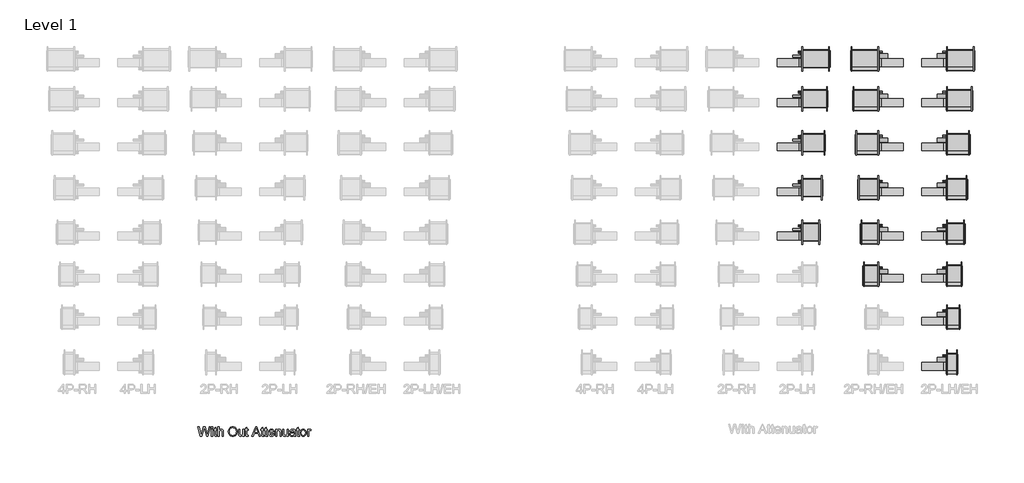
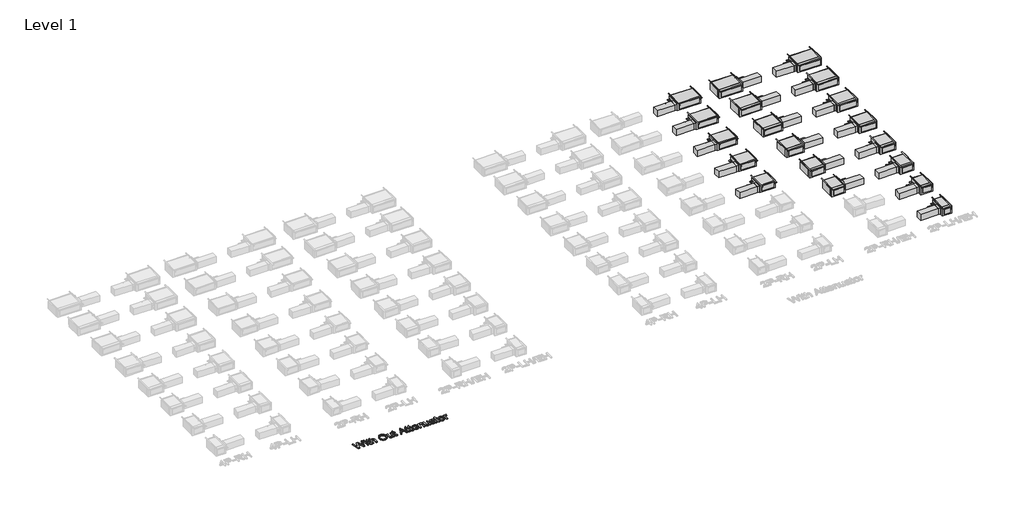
# One storey, part 2 of 4: 20 proxies.
"""IFC4 building model written with IfcOpenShell, lengths in millimetres."""

from ifc_helpers import new_model, si_unit, origin, origin_with_axes, place, context, project, spatial, polyline, outline, extrude, transform, mapped, element, save
from components import mechanical_equipment_1afd819a, mechanical_equipment_044ea831, mechanical_equipment_f4e936ba, mechanical_equipment_10c53586, mechanical_equipment_27d3f2bd, mechanical_equipment_bcd7ff5d, mechanical_equipment_bf31da1a, mechanical_equipment_6a731e72, mechanical_equipment_c1350a66, mechanical_equipment_6548215f, mechanical_equipment_0e267f77, mechanical_equipment_23481741, mechanical_equipment_97149d46, mechanical_equipment_6029a46f, mechanical_equipment_d98c4a94, mechanical_equipment_e087616a, mechanical_equipment_911e0225, mechanical_equipment_e784d3da, mechanical_equipment_f77b4c18

model = new_model("IFC4")

# Units and contexts
model_context = context("Model", 3, world=origin())
ifc_project = project(units=[si_unit("LENGTHUNIT", "METRE", prefix="MILLI")], contexts=[model_context])

# Site, building, storey
site = spatial("IfcSite", under=ifc_project)
building = spatial("IfcBuilding", under=site)
storey = spatial("IfcBuildingStorey", under=building, Name="Level 1", Elevation=0.0)

# Proxies
placement = place(None, origin())
mechanical_equipment_shape = mechanical_equipment_1afd819a(model_context)
element("IfcBuildingElementProxy", 1, Name="High_Capacity_Horizontal_Cabinet_Fan_Coil_Unit_-_HTY_-_IEC_-_2 Pipe, Elec Heat_LH Side_2022 : Size 06 - 277v/60Hz/1Ph - 8/0 Coil 4.0kW - 8\" AirIn", ObjectType="High_Capacity_Horizontal_Cabinet_Fan_Coil_Unit_-_HTY_-_IEC_-_2 Pipe, Elec Heat_LH Side_2022 : Size 06 - 277v/60Hz/1Ph - 8/0 Coil 4.0kW - 8\" AirIn", at=placement, inside=storey, context=model_context, shape_type="MappedRepresentation", body=[
    mapped(mechanical_equipment_shape, transform((8554.9811562, 2254.7980436, 457.2), x_axis=(1.0, 0.0, 0.0), y_axis=(0.0, 1.0, 0.0), z_axis=(0.0, 0.0, 1.0))),
])
mechanical_equipment_2_shape = mechanical_equipment_044ea831(model_context)
element("IfcBuildingElementProxy", 2, Name="High_Capacity_Horizontal_Cabinet_Fan_Coil_Unit_-_HTY_-_IEC_-_2 Pipe, Elec Heat_LH Side_2022 : Size 08 - 277v/60Hz/1Ph - 8/0 Coil 6.0kW - 8\" AirIn", ObjectType="High_Capacity_Horizontal_Cabinet_Fan_Coil_Unit_-_HTY_-_IEC_-_2 Pipe, Elec Heat_LH Side_2022 : Size 08 - 277v/60Hz/1Ph - 8/0 Coil 6.0kW - 8\" AirIn", at=placement, inside=storey, context=model_context, shape_type="MappedRepresentation", body=[
    mapped(mechanical_equipment_2_shape, transform((8618.4811562, 4489.9980436, 457.2), x_axis=(1.0, 0.0, 0.0), y_axis=(0.0, 1.0, 0.0), z_axis=(0.0, 0.0, 1.0))),
])
mechanical_equipment_3_shape = mechanical_equipment_f4e936ba(model_context)
element("IfcBuildingElementProxy", 3, Name="High_Capacity_Horizontal_Cabinet_Fan_Coil_Unit_-_HTY_-_IEC_-_2 Pipe, Elec Heat_LH Side_2022 : Size 10 - 277v/60Hz/1Ph - 8/0 Coil 7.0kW - 8\" AirIn", ObjectType="High_Capacity_Horizontal_Cabinet_Fan_Coil_Unit_-_HTY_-_IEC_-_2 Pipe, Elec Heat_LH Side_2022 : Size 10 - 277v/60Hz/1Ph - 8/0 Coil 7.0kW - 8\" AirIn", at=placement, inside=storey, context=model_context, shape_type="MappedRepresentation", body=[
    mapped(mechanical_equipment_3_shape, transform((8669.2811562, 6623.5980436, 457.2), x_axis=(1.0, 0.0, 0.0), y_axis=(0.0, 1.0, 0.0), z_axis=(0.0, 0.0, 1.0))),
])
mechanical_equipment_4_shape = mechanical_equipment_10c53586(model_context)
element("IfcBuildingElementProxy", 4, Name="High_Capacity_Horizontal_Cabinet_Fan_Coil_Unit_-_HTY_-_IEC_-_2 Pipe, Elec Heat_LH Side_2022 : Size 12 - 277v/60Hz/1Ph - 8/0 Coil 9.0kW - 5\" AirIn", ObjectType="High_Capacity_Horizontal_Cabinet_Fan_Coil_Unit_-_HTY_-_IEC_-_2 Pipe, Elec Heat_LH Side_2022 : Size 12 - 277v/60Hz/1Ph - 8/0 Coil 9.0kW - 5\" AirIn", at=placement, inside=storey, context=model_context, shape_type="MappedRepresentation", body=[
    mapped(mechanical_equipment_4_shape, transform((8732.7811562, 8706.3980436, 457.2), x_axis=(1.0, 0.0, 0.0), y_axis=(0.0, 1.0, 0.0), z_axis=(0.0, 0.0, 1.0))),
])
mechanical_equipment_5_shape = mechanical_equipment_27d3f2bd(model_context)
element("IfcBuildingElementProxy", 5, Name="High_Capacity_Horizontal_Cabinet_Fan_Coil_Unit_-_HTY_-_IEC_-_2 Pipe, Elec Heat_LH Side_2022 : Size 14 - 277v/60Hz/1Ph - 8/0 Coil 10.0kW - 8\" AirIn", ObjectType="High_Capacity_Horizontal_Cabinet_Fan_Coil_Unit_-_HTY_-_IEC_-_2 Pipe, Elec Heat_LH Side_2022 : Size 14 - 277v/60Hz/1Ph - 8/0 Coil 10.0kW - 8\" AirIn", at=placement, inside=storey, context=model_context, shape_type="MappedRepresentation", body=[
    mapped(mechanical_equipment_5_shape, transform((8796.2811562, 10893.3975065, 457.2), x_axis=(1.0, 0.0, 0.0), y_axis=(0.0, 1.0, 0.0), z_axis=(0.0, 0.0, 1.0))),
])
mechanical_equipment_6_shape = mechanical_equipment_bcd7ff5d(model_context)
element("IfcBuildingElementProxy", 6, Name="High_Capacity_Horizontal_Cabinet_Fan_Coil_Unit_-_HTY_-_IEC_-_2 Pipe, Elec Heat_LH Side_2022 : Size 16 - 277v/60Hz/1Ph - 8/0 Coil 10.0kW - 8\" AirIn", ObjectType="High_Capacity_Horizontal_Cabinet_Fan_Coil_Unit_-_HTY_-_IEC_-_2 Pipe, Elec Heat_LH Side_2022 : Size 16 - 277v/60Hz/1Ph - 8/0 Coil 10.0kW - 8\" AirIn", at=placement, inside=storey, context=model_context, shape_type="MappedRepresentation", body=[
    mapped(mechanical_equipment_6_shape, transform((8859.7811562, 13125.9980436, 457.2), x_axis=(1.0, 0.0, 0.0), y_axis=(0.0, 1.0, 0.0), z_axis=(0.0, 0.0, 1.0))),
])
mechanical_equipment_7_shape = mechanical_equipment_bf31da1a(model_context)
element("IfcBuildingElementProxy", 7, Name="High_Capacity_Horizontal_Cabinet_Fan_Coil_Unit_-_HTY_-_IEC_-_2 Pipe, Elec Heat_LH Side_2022 : Size 18 - 277v/60Hz/1Ph - 8/0 Coil 10.0kW - 8\" AirIn", ObjectType="High_Capacity_Horizontal_Cabinet_Fan_Coil_Unit_-_HTY_-_IEC_-_2 Pipe, Elec Heat_LH Side_2022 : Size 18 - 277v/60Hz/1Ph - 8/0 Coil 10.0kW - 8\" AirIn", at=placement, inside=storey, context=model_context, shape_type="MappedRepresentation", body=[
    mapped(mechanical_equipment_7_shape, transform((8923.2811562, 15310.3980436, 457.2), x_axis=(1.0, 0.0, 0.0), y_axis=(0.0, 1.0, 0.0), z_axis=(0.0, 0.0, 1.0))),
])
mechanical_equipment_8_shape = mechanical_equipment_6a731e72(model_context)
element("IfcBuildingElementProxy", 8, Name="High_Capacity_Horizontal_Cabinet_Fan_Coil_Unit_-_HTY_-_IEC_-_2 Pipe, Elec Heat_LH Side_2022 : Size 20 - 277v/60Hz/1Ph - 8/0 Coil 10.0kW - 8\" AirIn", ObjectType="High_Capacity_Horizontal_Cabinet_Fan_Coil_Unit_-_HTY_-_IEC_-_2 Pipe, Elec Heat_LH Side_2022 : Size 20 - 277v/60Hz/1Ph - 8/0 Coil 10.0kW - 8\" AirIn", at=placement, inside=storey, context=model_context, shape_type="MappedRepresentation", body=[
    mapped(mechanical_equipment_8_shape, transform((8974.0811562, 17291.5980436, 457.2), x_axis=(1.0, 0.0, 0.0), y_axis=(0.0, 1.0, 0.0), z_axis=(0.0, 0.0, 1.0))),
])
mechanical_equipment_9_shape = mechanical_equipment_c1350a66(model_context)
element("IfcBuildingElementProxy", 9, Name="High_Capacity_Horizontal_Cabinet_Fan_Coil_Unit_-_HTY_-_IEC_-_2 Pipe, Elec Heat_RH Side_2022 : Size 10 - 277v/60Hz/1Ph - 8/0 Coil 7.0kW - 8\" AirIn", ObjectType="High_Capacity_Horizontal_Cabinet_Fan_Coil_Unit_-_HTY_-_IEC_-_2 Pipe, Elec Heat_RH Side_2022 : Size 10 - 277v/60Hz/1Ph - 8/0 Coil 7.0kW - 8\" AirIn", at=placement, inside=storey, context=model_context, shape_type="MappedRepresentation", body=[
    mapped(mechanical_equipment_9_shape, transform((4554.4811562, 6623.5980436, 457.2), x_axis=(1.0, 0.0, 0.0), y_axis=(0.0, 1.0, 0.0), z_axis=(0.0, 0.0, 1.0))),
])
mechanical_equipment_10_shape = mechanical_equipment_6548215f(model_context)
element("IfcBuildingElementProxy", 10, Name="High_Capacity_Horizontal_Cabinet_Fan_Coil_Unit_-_HTY_-_IEC_-_2 Pipe, Elec Heat_RH Side_2022 : Size 12 - 277v/60Hz/1Ph - 8/0 Coil 9.0kW - 8\" AirIn", ObjectType="High_Capacity_Horizontal_Cabinet_Fan_Coil_Unit_-_HTY_-_IEC_-_2 Pipe, Elec Heat_RH Side_2022 : Size 12 - 277v/60Hz/1Ph - 8/0 Coil 9.0kW - 8\" AirIn", at=placement, inside=storey, context=model_context, shape_type="MappedRepresentation", body=[
    mapped(mechanical_equipment_10_shape, transform((4490.9811562, 8706.3980436, 457.2), x_axis=(1.0, 0.0, 0.0), y_axis=(0.0, 1.0, 0.0), z_axis=(0.0, 0.0, 1.0))),
])
mechanical_equipment_11_shape = mechanical_equipment_0e267f77(model_context)
element("IfcBuildingElementProxy", 11, Name="High_Capacity_Horizontal_Cabinet_Fan_Coil_Unit_-_HTY_-_IEC_-_2 Pipe, Elec Heat_RH Side_2022 : Size 14 - 277v/60Hz/1Ph - 8/0 Coil 10.0kW - 8\" AirIn", ObjectType="High_Capacity_Horizontal_Cabinet_Fan_Coil_Unit_-_HTY_-_IEC_-_2 Pipe, Elec Heat_RH Side_2022 : Size 14 - 277v/60Hz/1Ph - 8/0 Coil 10.0kW - 8\" AirIn", at=placement, inside=storey, context=model_context, shape_type="MappedRepresentation", body=[
    mapped(mechanical_equipment_11_shape, transform((4427.4811562, 10893.3975065, 457.2), x_axis=(1.0, 0.0, 0.0), y_axis=(0.0, 1.0, 0.0), z_axis=(0.0, 0.0, 1.0))),
])
mechanical_equipment_12_shape = mechanical_equipment_23481741(model_context)
element("IfcBuildingElementProxy", 12, Name="High_Capacity_Horizontal_Cabinet_Fan_Coil_Unit_-_HTY_-_IEC_-_2 Pipe, Elec Heat_RH Side_2022 : Size 16 - 277v/60Hz/1Ph - 8/0 Coil 10.0kW - 8\" AirIn", ObjectType="High_Capacity_Horizontal_Cabinet_Fan_Coil_Unit_-_HTY_-_IEC_-_2 Pipe, Elec Heat_RH Side_2022 : Size 16 - 277v/60Hz/1Ph - 8/0 Coil 10.0kW - 8\" AirIn", at=placement, inside=storey, context=model_context, shape_type="MappedRepresentation", body=[
    mapped(mechanical_equipment_12_shape, transform((4363.9811562, 13125.9980436, 457.2), x_axis=(1.0, 0.0, 0.0), y_axis=(0.0, 1.0, 0.0), z_axis=(0.0, 0.0, 1.0))),
])
mechanical_equipment_13_shape = mechanical_equipment_97149d46(model_context)
element("IfcBuildingElementProxy", 13, Name="High_Capacity_Horizontal_Cabinet_Fan_Coil_Unit_-_HTY_-_IEC_-_2 Pipe, Elec Heat_RH Side_2022 : Size 18 - 277v/60Hz/1Ph - 8/0 Coil 10.0kW - 8\" AirIn", ObjectType="High_Capacity_Horizontal_Cabinet_Fan_Coil_Unit_-_HTY_-_IEC_-_2 Pipe, Elec Heat_RH Side_2022 : Size 18 - 277v/60Hz/1Ph - 8/0 Coil 10.0kW - 8\" AirIn", at=placement, inside=storey, context=model_context, shape_type="MappedRepresentation", body=[
    mapped(mechanical_equipment_13_shape, transform((4300.4811562, 15310.3980436, 457.2), x_axis=(1.0, 0.0, 0.0), y_axis=(0.0, 1.0, 0.0), z_axis=(0.0, 0.0, 1.0))),
])
mechanical_equipment_14_shape = mechanical_equipment_6029a46f(model_context)
element("IfcBuildingElementProxy", 14, Name="High_Capacity_Horizontal_Cabinet_Fan_Coil_Unit_-_HTY_-_IEC_-_2 Pipe, Elec Heat_RH Side_2022 : Size 20 - 277v/60Hz/1Ph - 8/0 Coil 10.0kW - 8\" AirIn", ObjectType="High_Capacity_Horizontal_Cabinet_Fan_Coil_Unit_-_HTY_-_IEC_-_2 Pipe, Elec Heat_RH Side_2022 : Size 20 - 277v/60Hz/1Ph - 8/0 Coil 10.0kW - 8\" AirIn", at=placement, inside=storey, context=model_context, shape_type="MappedRepresentation", body=[
    mapped(mechanical_equipment_14_shape, transform((4249.6811562, 17291.5980436, 457.2), x_axis=(1.0, 0.0, 0.0), y_axis=(0.0, 1.0, 0.0), z_axis=(0.0, 0.0, 1.0))),
])
mechanical_equipment_15_shape = mechanical_equipment_d98c4a94(model_context)
element("IfcBuildingElementProxy", 15, Name="High_Capacity_Horizontal_Cabinet_Fan_Coil_Unit_-_HTY_-_IEC_-_2-Pipe_LH Side_2022 : Size 12 - 115v/60Hz/1Ph - 4/0 Coil - 4\" AirIn", ObjectType="High_Capacity_Horizontal_Cabinet_Fan_Coil_Unit_-_HTY_-_IEC_-_2-Pipe_LH Side_2022 : Size 12 - 115v/60Hz/1Ph - 4/0 Coil - 4\" AirIn", at=placement, inside=storey, context=model_context, shape_type="MappedRepresentation", body=[
    mapped(mechanical_equipment_15_shape, transform((1569.9811562, 8706.3980436, 457.2), x_axis=(1.0, 0.0, 0.0), y_axis=(0.0, 1.0, 0.0), z_axis=(0.0, 0.0, 1.0))),
])
mechanical_equipment_16_shape = mechanical_equipment_e087616a(model_context)
element("IfcBuildingElementProxy", 16, Name="High_Capacity_Horizontal_Cabinet_Fan_Coil_Unit_-_HTY_-_IEC_-_2-Pipe_LH Side_2022 : Size 14 - 115v/60Hz/1Ph - 4/0 Coil - 4\" AirIn", ObjectType="High_Capacity_Horizontal_Cabinet_Fan_Coil_Unit_-_HTY_-_IEC_-_2-Pipe_LH Side_2022 : Size 14 - 115v/60Hz/1Ph - 4/0 Coil - 4\" AirIn", at=placement, inside=storey, context=model_context, shape_type="MappedRepresentation", body=[
    mapped(mechanical_equipment_16_shape, transform((1633.4811562, 10893.3975065, 457.2), x_axis=(1.0, 0.0, 0.0), y_axis=(0.0, 1.0, 0.0), z_axis=(0.0, 0.0, 1.0))),
])
mechanical_equipment_17_shape = mechanical_equipment_911e0225(model_context)
element("IfcBuildingElementProxy", 17, Name="High_Capacity_Horizontal_Cabinet_Fan_Coil_Unit_-_HTY_-_IEC_-_2-Pipe_LH Side_2022 : Size 16 - 115v/60Hz/1Ph - 4/0 Coil - 4\" AirIn", ObjectType="High_Capacity_Horizontal_Cabinet_Fan_Coil_Unit_-_HTY_-_IEC_-_2-Pipe_LH Side_2022 : Size 16 - 115v/60Hz/1Ph - 4/0 Coil - 4\" AirIn", at=placement, inside=storey, context=model_context, shape_type="MappedRepresentation", body=[
    mapped(mechanical_equipment_17_shape, transform((1696.9811562, 13125.9980436, 457.2), x_axis=(1.0, 0.0, 0.0), y_axis=(0.0, 1.0, 0.0), z_axis=(0.0, 0.0, 1.0))),
])
mechanical_equipment_18_shape = mechanical_equipment_e784d3da(model_context)
element("IfcBuildingElementProxy", 18, Name="High_Capacity_Horizontal_Cabinet_Fan_Coil_Unit_-_HTY_-_IEC_-_2-Pipe_LH Side_2022 : Size 18 - 115v/60Hz/1Ph - 4/0 Coil - 4\" AirIn", ObjectType="High_Capacity_Horizontal_Cabinet_Fan_Coil_Unit_-_HTY_-_IEC_-_2-Pipe_LH Side_2022 : Size 18 - 115v/60Hz/1Ph - 4/0 Coil - 4\" AirIn", at=placement, inside=storey, context=model_context, shape_type="MappedRepresentation", body=[
    mapped(mechanical_equipment_18_shape, transform((1760.4811562, 15310.3980436, 457.2), x_axis=(1.0, 0.0, 0.0), y_axis=(0.0, 1.0, 0.0), z_axis=(0.0, 0.0, 1.0))),
])
mechanical_equipment_19_shape = mechanical_equipment_f77b4c18(model_context)
element("IfcBuildingElementProxy", 19, Name="High_Capacity_Horizontal_Cabinet_Fan_Coil_Unit_-_HTY_-_IEC_-_2-Pipe_LH Side_2022 : Size 20 - 115v/60Hz/1Ph - 4/0 Coil - 4\" AirIn", ObjectType="High_Capacity_Horizontal_Cabinet_Fan_Coil_Unit_-_HTY_-_IEC_-_2-Pipe_LH Side_2022 : Size 20 - 115v/60Hz/1Ph - 4/0 Coil - 4\" AirIn", at=placement, inside=storey, context=model_context, shape_type="MappedRepresentation", body=[
    mapped(mechanical_equipment_19_shape, transform((1811.2811562, 17291.5980436, 457.2), x_axis=(1.0, 0.0, 0.0), y_axis=(0.0, 1.0, 0.0), z_axis=(0.0, 0.0, 1.0))),
])
element("IfcBuildingElementProxy", 20, Name="24\" Arial", ObjectType="24\" Arial", at=placement, inside=storey, context=model_context, shape_type="SweptSolid", body=[
    extrude(outline(polyline([(-28471.7605203, -1634.7199611), (-28596.34601, -1177.86932), (-28537.4551071, -1177.86932), (-28465.179908, -1478.1236965), (-28442.8727478, -1570.8099471), (-28419.0040864, -1488.8311334), (-28328.4370159, -1177.86932), (-28243.5582713, -1177.86932), (-28177.7521487, -1403.283174), (-28149.561475, -1486.9350247), (-28128.787932, -1570.8099471), (-28107.1499866, -1480.8005557), (-28034.2055727, -1177.86932), (-27975.3146698, -1177.86932), (-28100.0116954, -1634.7199611), (-28161.0217785, -1634.7199611), (-28270.5499352, -1282.2668298), (-28285.8303399, -1233.0795416), (-28303.0068533, -1292.3050519), (-28402.8313952, -1634.7199611), (-28471.7605203, -1634.7199611)])), origin_with_axes(), (0.0, 0.0, 1.0), 50.8),
    extrude(outline(polyline([(-27925.3466309, -1234.9756502), (-27925.3466309, -1177.86932), (-27868.2403008, -1177.86932), (-27868.2403008, -1234.9756502), (-27925.3466309, -1234.9756502)])), origin_with_axes(), (0.0, 0.0, 1.0), 50.8),
    extrude(outline(polyline([(-27925.3466309, -1634.7199611), (-27925.3466309, -1299.2202716), (-27868.2403008, -1299.2202716), (-27868.2403008, -1634.7199611), (-27925.3466309, -1634.7199611)])), origin_with_axes(), (0.0, 0.0, 1.0), 50.8),
    extrude(outline(polyline([(-27661.229854, -1587.0941741), (-27654.0915628, -1636.3929982), (-27696.8097746, -1641.8582524), (-27724.2196977, -1639.4881166), (-27744.6586332, -1632.3777093), (-27759.1025194, -1621.4193169), (-27768.5272946, -1607.5052257), (-27773.7137094, -1583.6086803), (-27775.4425143, -1542.7029253), (-27775.4425143, -1356.3266017), (-27818.2722619, -1356.3266017), (-27818.2722619, -1299.2202716), (-27775.4425143, -1299.2202716), (-27775.4425143, -1217.687601), (-27718.3361842, -1184.1153249), (-27718.3361842, -1299.2202716), (-27661.229854, -1299.2202716), (-27661.229854, -1356.3266017), (-27718.3361842, -1356.3266017), (-27718.3361842, -1541.0298883), (-27715.3247175, -1570.4753397), (-27705.5653349, -1580.9039371), (-27686.1023377, -1584.7519223), (-27661.229854, -1587.0941741)])), origin_with_axes(), (0.0, 0.0, 1.0), 50.8),
    extrude(outline(polyline([(-27604.1235239, -1634.7199611), (-27604.1235239, -1177.86932), (-27547.0171937, -1177.86932), (-27547.0171937, -1345.8422364), (-27526.0414922, -1322.3221244), (-27502.4865252, -1305.5220443), (-27476.3522928, -1295.4419963), (-27447.638795, -1292.0819803), (-27413.1463485, -1295.7487198), (-27383.5057094, -1306.7489381), (-27360.166843, -1324.218233), (-27344.5797148, -1347.2922018), (-27335.7962705, -1378.9962533), (-27332.8684557, -1422.3557959), (-27332.8684557, -1634.7199611), (-27389.9747859, -1634.7199611), (-27389.9747859, -1428.2671934), (-27394.5198698, -1392.5199692), (-27400.2012246, -1378.8707755), (-27408.1551214, -1368.0378608), (-27430.1276742, -1353.900698), (-27459.6846615, -1349.1883104), (-27483.8182205, -1352.3670808), (-27506.4739301, -1361.9033918), (-27525.2398286, -1376.8770731), (-27537.7039544, -1396.3679543), (-27544.6888839, -1422.2721441), (-27547.0171937, -1456.4857511), (-27547.0171937, -1634.7199611), (-27604.1235239, -1634.7199611)])), origin_with_axes(), (0.0, 0.0, 1.0), 50.8),
    extrude(outline(polyline([(-27090.1665526, -1412.3175738), (-27086.3603934, -1358.7315924), (-27074.9419158, -1311.294022), (-27055.9111197, -1270.0048627), (-27029.2680053, -1234.8641144), (-26996.6089285, -1206.8058894), (-26959.5302457, -1186.7643002), (-26918.0319567, -1174.7393466), (-26872.1140616, -1170.7310288), (-26841.3789774, -1172.6131954), (-26812.1914525, -1178.2596953), (-26784.5514868, -1187.6705285), (-26758.4590803, -1200.845695), (-26734.6461868, -1217.3878485), (-26713.8447599, -1236.8996427), (-26696.0547996, -1259.3810776), (-26681.276306, -1284.8321532), (-26669.6626407, -1312.6742776), (-26661.3671655, -1342.3288587), (-26656.3898804, -1373.7958966), (-26654.7307853, -1407.0753912), (-26656.4770177, -1440.794058), (-26661.7157149, -1472.6863262), (-26670.4468768, -1502.7521955), (-26682.6705035, -1530.9916662), (-26698.097299, -1556.6588424), (-26716.4379673, -1579.0078285), (-26737.6925084, -1598.0386246), (-26761.8609223, -1613.7512305), (-26787.9916691, -1626.0480526), (-26815.1332092, -1634.8314969), (-26843.2855425, -1640.1015635), (-26872.448669, -1641.8582524), (-26903.7205192, -1639.9168324), (-26933.2914485, -1634.0925723), (-26961.1614568, -1624.3854721), (-26987.3305441, -1610.7955318), (-27011.1155537, -1593.849061), (-27031.8333287, -1574.0723693), (-27049.4838692, -1551.4654566), (-27064.0671752, -1526.028323), (-27075.4856528, -1498.7822181), (-27083.6417083, -1470.7483916), (-27088.5353416, -1441.9268435), (-27090.1665526, -1412.3175738)]), holes=[polyline([(-27033.0602225, -1412.8752528), (-27030.2056031, -1450.7346863), (-27021.6417449, -1484.3418174), (-27007.3686478, -1513.696646), (-26987.386312, -1538.7991722), (-26963.0959058, -1558.9035004), (-26935.8985978, -1573.2637348), (-26905.794388, -1581.8798754), (-26872.7832764, -1584.7519223), (-26839.2075148, -1581.8519914), (-26808.7477846, -1573.152199), (-26781.4040859, -1558.6525448), (-26757.1764186, -1538.353029), (-26737.3404735, -1512.7207077), (-26723.1719413, -1482.2226371), (-26714.6708219, -1446.8588172), (-26711.8371155, -1406.629248), (-26716.6889228, -1356.0756462), (-26731.2443449, -1312.3814961), (-26755.1269483, -1276.6482138), (-26787.9602997, -1249.9772154), (-26827.569451, -1233.372323), (-26871.7794542, -1227.8373589), (-26903.6438384, -1230.5037616), (-26933.2077966, -1238.5029699), (-26960.471329, -1251.8349836), (-26985.4344355, -1270.4998028), (-27006.2707173, -1295.3966849), (-27021.1537757, -1327.4248873), (-27030.0836108, -1366.5844099), (-27033.0602225, -1412.8752528)])]), origin_with_axes(), (0.0, 0.0, 1.0), 50.8),
    extrude(outline(polyline([(-26369.1991347, -1634.7199611), (-26369.1991347, -1577.055952), (-26389.8611418, -1605.4069584), (-26413.9249909, -1625.6576773), (-26441.3906819, -1637.8081086), (-26472.2582148, -1641.8582524), (-26500.0724552, -1639.0140895), (-26525.962703, -1630.4816007), (-26547.6843003, -1617.6549836), (-26562.992589, -1601.9284356), (-26573.2957086, -1582.8279297), (-26580.0017986, -1559.8794386), (-26583.3478727, -1506.7883973), (-26583.3478727, -1299.2202716), (-26526.2415425, -1299.2202716), (-26526.2415425, -1479.9082693), (-26522.7839327, -1538.1299574), (-26514.4605735, -1557.5511288), (-26500.197933, -1572.3156804), (-26480.9440653, -1581.6428618), (-26457.6470249, -1584.7519223), (-26433.0115548, -1581.5731519), (-26409.9654699, -1572.0368409), (-26390.9625578, -1557.0213337), (-26378.4566061, -1537.4049747), (-26371.5135025, -1510.5387886), (-26369.1991347, -1473.7738002), (-26369.1991347, -1299.2202716), (-26312.0928045, -1299.2202716), (-26312.0928045, -1634.7199611), (-26369.1991347, -1634.7199611)])), origin_with_axes(), (0.0, 0.0, 1.0), 50.8),
    extrude(outline(polyline([(-26112.220649, -1587.0941741), (-26105.0823578, -1636.3929982), (-26147.8005696, -1641.8582524), (-26175.2104927, -1639.4881166), (-26195.6494282, -1632.3777093), (-26210.0933145, -1621.4193169), (-26219.5180896, -1607.5052257), (-26224.7045044, -1583.6086803), (-26226.4333093, -1542.7029253), (-26226.4333093, -1356.3266017), (-26269.2630569, -1356.3266017), (-26269.2630569, -1299.2202716), (-26226.4333093, -1299.2202716), (-26226.4333093, -1217.687601), (-26169.3269792, -1184.1153249), (-26169.3269792, -1299.2202716), (-26112.220649, -1299.2202716), (-26112.220649, -1356.3266017), (-26169.3269792, -1356.3266017), (-26169.3269792, -1541.0298883), (-26166.3155125, -1570.4753397), (-26156.55613, -1580.9039371), (-26137.0931327, -1584.7519223), (-26112.220649, -1587.0941741)])), origin_with_axes(), (0.0, 0.0, 1.0), 50.8),
    extrude(outline(polyline([(-25922.7213231, -1634.7199611), (-25740.3602883, -1177.86932), (-25691.7306791, -1177.86932), (-25509.3696444, -1634.7199611), (-25569.7105127, -1634.7199611), (-25622.0208034, -1491.9541358), (-25810.1816998, -1491.9541358), (-25862.3804547, -1634.7199611), (-25922.7213231, -1634.7199611)]), holes=[polyline([(-25789.2129692, -1434.8478057), (-25642.8779982, -1434.8478057), (-25684.0347088, -1322.531254), (-25716.0454837, -1234.9756502), (-25744.487113, -1312.7161035), (-25789.2129692, -1434.8478057)])]), origin_with_axes(), (0.0, 0.0, 1.0), 50.8),
    extrude(outline(polyline([(-25334.1469009, -1587.0941741), (-25327.0086096, -1636.3929982), (-25369.7268214, -1641.8582524), (-25397.1367446, -1639.4881166), (-25417.5756801, -1632.3777093), (-25432.0195663, -1621.4193169), (-25441.4443415, -1607.5052257), (-25446.6307563, -1583.6086803), (-25448.3595612, -1542.7029253), (-25448.3595612, -1356.3266017), (-25491.1893088, -1356.3266017), (-25491.1893088, -1299.2202716), (-25448.3595612, -1299.2202716), (-25448.3595612, -1217.687601), (-25391.253231, -1184.1153249), (-25391.253231, -1299.2202716), (-25334.1469009, -1299.2202716), (-25334.1469009, -1356.3266017), (-25391.253231, -1356.3266017), (-25391.253231, -1541.0298883), (-25388.2417644, -1570.4753397), (-25378.4823818, -1580.9039371), (-25359.0193845, -1584.7519223), (-25334.1469009, -1587.0941741)])), origin_with_axes(), (0.0, 0.0, 1.0), 50.8),
    extrude(outline(polyline([(-25155.6896192, -1587.0941741), (-25148.551328, -1636.3929982), (-25191.2695398, -1641.8582524), (-25218.6794629, -1639.4881166), (-25239.1183984, -1632.3777093), (-25253.5622846, -1621.4193169), (-25262.9870598, -1607.5052257), (-25268.1734746, -1583.6086803), (-25269.9022795, -1542.7029253), (-25269.9022795, -1356.3266017), (-25312.7320271, -1356.3266017), (-25312.7320271, -1299.2202716), (-25269.9022795, -1299.2202716), (-25269.9022795, -1217.687601), (-25212.7959494, -1184.1153249), (-25212.7959494, -1299.2202716), (-25155.6896192, -1299.2202716), (-25155.6896192, -1356.3266017), (-25212.7959494, -1356.3266017), (-25212.7959494, -1541.0298883), (-25209.7844827, -1570.4753397), (-25200.0251001, -1580.9039371), (-25180.5621029, -1584.7519223), (-25155.6896192, -1587.0941741)])), origin_with_axes(), (0.0, 0.0, 1.0), 50.8),
    extrude(outline(polyline([(-24863.6888921, -1534.7838834), (-24807.69792, -1541.9221747), (-24816.2826911, -1564.3478417), (-24827.871958, -1584.1105914), (-24842.4657204, -1601.2104239), (-24860.0639785, -1615.6473392), (-24880.4854866, -1627.1146137), (-24903.548999, -1635.3055241), (-24929.2545156, -1640.2200703), (-24957.6020366, -1641.8582524), (-24993.0355664, -1639.0315169), (-25024.607169, -1630.5513106), (-25052.3168446, -1616.4176333), (-25076.1645931, -1596.6304851), (-25095.3417799, -1571.740574), (-25109.0397704, -1542.298608), (-25117.2585648, -1508.3045871), (-25119.9981629, -1469.7585114), (-25117.2306808, -1429.9053755), (-25108.9282346, -1394.7785691), (-25095.0908243, -1364.3780924), (-25075.7184499, -1338.7039451), (-25051.9334403, -1318.3068355), (-25024.8581246, -1303.7374715), (-24994.4925028, -1294.9958531), (-24960.8365748, -1292.0819803), (-24928.2646354, -1294.9888821), (-24898.8087274, -1303.7095876), (-24872.4688509, -1318.2440966), (-24849.2450058, -1338.5924093), (-24830.2874052, -1364.2107886), (-24816.7462618, -1394.5554975), (-24808.6215758, -1429.626536), (-24805.9133471, -1469.423904), (-24806.2479545, -1484.8158445), (-25062.8918328, -1484.8158445), (-25059.5840992, -1507.6040029), (-25053.0069724, -1527.5619403), (-25043.1604524, -1544.6896567), (-25030.0445393, -1558.9871522), (-25014.3842158, -1570.2592391), (-24996.9044645, -1578.3107298), (-24977.6052854, -1583.1416241), (-24956.4866786, -1584.7519223), (-24926.0931728, -1581.7683396), (-24900.4957064, -1572.8175916), (-24879.6942795, -1557.3419992), (-24863.6888921, -1534.7838834)]), holes=[polyline([(-25062.8918328, -1427.7095144), (-24863.0196773, -1427.7095144), (-24870.7435315, -1397.5390802), (-24885.8845165, -1375.9569027), (-24901.4577027, -1364.2456436), (-24919.1779531, -1355.8804585), (-24939.0452677, -1350.8613475), (-24961.0596464, -1349.1883104), (-24999.5534397, -1354.5280869), (-25031.382969, -1370.5474163), (-25044.0387969, -1382.1297122), (-25053.5088835, -1395.5174938), (-25059.7932288, -1410.7107612), (-25062.8918328, -1427.7095144)])]), origin_with_axes(), (0.0, 0.0, 1.0), 50.8),
    extrude(outline(polyline([(-24748.807017, -1634.7199611), (-24748.807017, -1299.2202716), (-24691.7006869, -1299.2202716), (-24691.7006869, -1346.065308), (-24671.8612562, -1322.4476021), (-24648.0344207, -1305.5778122), (-24620.2201804, -1295.4559383), (-24588.4185351, -1292.0819803), (-24560.2696873, -1294.8006655), (-24534.4909753, -1302.9567209), (-24512.9924496, -1315.5323825), (-24497.6841609, -1331.509886), (-24487.2973895, -1350.8474055), (-24480.5634155, -1373.5031151), (-24477.5519488, -1428.7133366), (-24477.5519488, -1634.7199611), (-24534.658279, -1634.7199611), (-24534.658279, -1436.4093069), (-24536.303432, -1406.8802035), (-24541.2388912, -1385.883589), (-24550.343001, -1370.8401978), (-24564.4941058, -1359.1707646), (-24582.6326154, -1351.683924), (-24603.6989398, -1349.1883104), (-24637.1457382, -1354.7929844), (-24665.6570773, -1371.6070065), (-24677.0511565, -1385.332881), (-24685.1897845, -1404.0918085), (-24690.0729613, -1427.8837891), (-24691.7006869, -1456.7088227), (-24691.7006869, -1634.7199611), (-24748.807017, -1634.7199611)])), origin_with_axes(), (0.0, 0.0, 1.0), 50.8),
    extrude(outline(polyline([(-24184.8820069, -1634.7199611), (-24184.8820069, -1577.055952), (-24205.544014, -1605.4069584), (-24229.6078631, -1625.6576773), (-24257.0735541, -1637.8081086), (-24287.9410871, -1641.8582524), (-24315.7553274, -1639.0140895), (-24341.6455753, -1630.4816007), (-24363.3671725, -1617.6549836), (-24378.6754612, -1601.9284356), (-24388.9785808, -1582.8279297), (-24395.6846709, -1559.8794386), (-24399.0307449, -1506.7883973), (-24399.0307449, -1299.2202716), (-24341.9244148, -1299.2202716), (-24341.9244148, -1479.9082693), (-24338.4668049, -1538.1299574), (-24330.1434458, -1557.5511288), (-24315.8808052, -1572.3156804), (-24296.6269376, -1581.6428618), (-24273.3298971, -1584.7519223), (-24248.6944271, -1581.5731519), (-24225.6483422, -1572.0368409), (-24206.6454301, -1557.0213337), (-24194.1394784, -1537.4049747), (-24187.1963748, -1510.5387886), (-24184.8820069, -1473.7738002), (-24184.8820069, -1299.2202716), (-24127.7756767, -1299.2202716), (-24127.7756767, -1634.7199611), (-24184.8820069, -1634.7199611)])), origin_with_axes(), (0.0, 0.0, 1.0), 50.8),
    extrude(outline(polyline([(-23835.1057348, -1591.8902135), (-23862.3901801, -1615.2848478), (-23890.48326, -1630.5931365), (-23920.0263053, -1639.0419734), (-23951.6606469, -1641.8582524), (-23977.087324, -1640.1643024), (-23999.3840278, -1635.0824525), (-24018.5507581, -1626.6127026), (-24034.587515, -1614.7550527), (-24047.2503139, -1600.2623696), (-24056.2951702, -1583.8875198), (-24061.7220841, -1565.6305034), (-24063.5310553, -1545.4913203), (-24060.7984282, -1521.8178465), (-24052.6005468, -1500.3193209), (-24039.9551754, -1481.9159137), (-24023.8800781, -1467.5277954), (-24004.9887018, -1456.6530548), (-23983.8944934, -1448.7897808), (-23934.4841335, -1440.2015241), (-23876.0951417, -1431.1671242), (-23835.4403422, -1420.5712231), (-23835.1057348, -1407.8561418), (-23839.0373718, -1382.3702113), (-23850.8322827, -1365.695609), (-23877.2104997, -1353.3151351), (-23913.9615461, -1349.1883104), (-23947.9799655, -1351.9348795), (-23971.7370911, -1360.1745868), (-23987.9376662, -1375.4131657), (-23999.2864339, -1399.1563493), (-24056.3927641, -1392.018058), (-24046.4800198, -1360.7880338), (-24031.6875841, -1336.2501575), (-24010.6352017, -1317.484259), (-23981.9426169, -1303.5701678), (-23946.8506655, -1294.9540272), (-23906.6001833, -1292.0819803), (-23867.9948541, -1294.6194198), (-23837.3922187, -1302.2317382), (-23814.3182499, -1313.6780998), (-23798.2989204, -1327.7176687), (-23787.6751354, -1345.0754278), (-23780.7877997, -1366.4763596), (-23777.9994047, -1416.4443985), (-23777.9994047, -1487.4927037), (-23775.0994738, -1586.7037988), (-23763.7228221, -1634.7199611), (-23820.8291523, -1634.7199611), (-23829.9750879, -1614.8665885), (-23835.1057348, -1591.8902135)]), holes=[polyline([(-23835.1057348, -1477.6775533), (-23873.4740504, -1487.1859803), (-23927.2343065, -1495.188674), (-23976.3658268, -1504.4461455), (-23989.150618, -1510.7758022), (-23998.6172191, -1519.5034786), (-24004.4728487, -1529.95996), (-24006.4247252, -1541.4760315), (-24002.1724228, -1558.4573572), (-23989.4155155, -1572.3714483), (-23968.432843, -1581.6568038), (-23939.5032446, -1584.7519223), (-23908.8308993, -1581.3361384), (-23881.7276996, -1571.0887866), (-23859.7551468, -1555.9896276), (-23844.4747421, -1538.0184216), (-23837.6989422, -1519.5034786), (-23835.4403422, -1493.8502444), (-23835.1057348, -1477.6775533)])]), origin_with_axes(), (0.0, 0.0, 1.0), 50.8),
    extrude(outline(polyline([(-23578.1272492, -1587.0941741), (-23570.9889579, -1636.3929982), (-23613.7071697, -1641.8582524), (-23641.1170928, -1639.4881166), (-23661.5560284, -1632.3777093), (-23675.9999146, -1621.4193169), (-23685.4246898, -1607.5052257), (-23690.6111045, -1583.6086803), (-23692.3399094, -1542.7029253), (-23692.3399094, -1356.3266017), (-23735.169657, -1356.3266017), (-23735.169657, -1299.2202716), (-23692.3399094, -1299.2202716), (-23692.3399094, -1217.687601), (-23635.2335793, -1184.1153249), (-23635.2335793, -1299.2202716), (-23578.1272492, -1299.2202716), (-23578.1272492, -1356.3266017), (-23635.2335793, -1356.3266017), (-23635.2335793, -1541.0298883), (-23632.2221127, -1570.4753397), (-23622.4627301, -1580.9039371), (-23602.9997328, -1584.7519223), (-23578.1272492, -1587.0941741)])), origin_with_axes(), (0.0, 0.0, 1.0), 50.8),
    extrude(outline(polyline([(-23535.2975016, -1466.9701164), (-23532.2093541, -1423.5199509), (-23522.9449116, -1386.0787766), (-23507.5041741, -1354.6465937), (-23485.8871417, -1329.2234021), (-23464.1237185, -1312.97403), (-23440.1016954, -1301.3673357), (-23413.8210722, -1294.4033192), (-23385.2818492, -1292.0819803), (-23353.7764709, -1294.9087158), (-23325.2895302, -1303.3889221), (-23299.8210271, -1317.5225994), (-23277.3709616, -1337.3097476), (-23259.0477208, -1362.0811519), (-23245.9596917, -1391.1675976), (-23238.1068742, -1424.5690845), (-23235.4892683, -1462.2856127), (-23240.1180041, -1519.9775058), (-23245.9039238, -1543.6579506), (-23254.0042113, -1563.8947275), (-23276.7435728, -1596.7838468), (-23307.9317711, -1621.3914329), (-23344.9755991, -1636.7415475), (-23385.2818492, -1641.8582524), (-23417.2473126, -1639.0419734), (-23445.9991509, -1630.5931365), (-23471.5373638, -1616.5117416), (-23493.8619515, -1596.7977888), (-23511.9900046, -1571.7858854), (-23524.938614, -1541.8106389), (-23532.7077797, -1506.8720492), (-23535.2975016, -1466.9701164)]), holes=[polyline([(-23478.1911714, -1466.8585806), (-23476.5390474, -1494.5577996), (-23471.5826752, -1518.5414824), (-23463.322055, -1538.8096287), (-23451.7571866, -1555.3622387), (-23437.6897337, -1568.2202253), (-23421.9213598, -1577.4045014), (-23404.452065, -1582.915067), (-23385.2818492, -1584.7519223), (-23366.2092272, -1582.9046106), (-23348.8096422, -1577.3626754), (-23333.0830943, -1568.1261169), (-23319.0295833, -1555.194935), (-23307.464715, -1538.4785068), (-23299.2040947, -1517.8862095), (-23294.2477225, -1493.4180432), (-23292.5955985, -1465.0740077), (-23294.258179, -1438.2531331), (-23299.2459206, -1414.8968392), (-23307.5588233, -1395.0051262), (-23319.196887, -1378.577994), (-23333.3026804, -1365.7200075), (-23349.0187718, -1356.5357313), (-23366.3451614, -1351.0251657), (-23385.2818492, -1349.1883104), (-23404.452065, -1351.0181947), (-23421.9213598, -1356.5078474), (-23437.6897337, -1365.6572686), (-23451.7571866, -1378.4664582), (-23463.322055, -1394.9702713), (-23471.5826752, -1415.2035627), (-23476.5390474, -1439.1663324), (-23478.1911714, -1466.8585806)])]), origin_with_axes(), (0.0, 0.0, 1.0), 50.8),
    extrude(outline(polyline([(-23171.2446469, -1634.7199611), (-23171.2446469, -1299.2202716), (-23121.2766081, -1299.2202716), (-23121.2766081, -1348.853703), (-23102.817433, -1320.0774664), (-23085.8082233, -1303.1240246), (-23068.7432458, -1294.8424914), (-23050.116767, -1292.0819803), (-23021.6751377, -1296.4876444), (-22992.7873653, -1309.7046369), (-23011.8599872, -1360.8995696), (-23031.9364314, -1352.1161252), (-23052.0128756, -1349.1883104), (-23069.0639112, -1352.0045894), (-23084.30249, -1360.4534264), (-23096.6132541, -1373.8934904), (-23104.8808453, -1391.6834506), (-23111.8239489, -1423.5826897), (-23114.1383168, -1458.3818597), (-23114.1383168, -1634.7199611), (-23171.2446469, -1634.7199611)])), origin_with_axes(), (0.0, 0.0, 1.0), 50.8),
])

save(model, "model.ifc")
